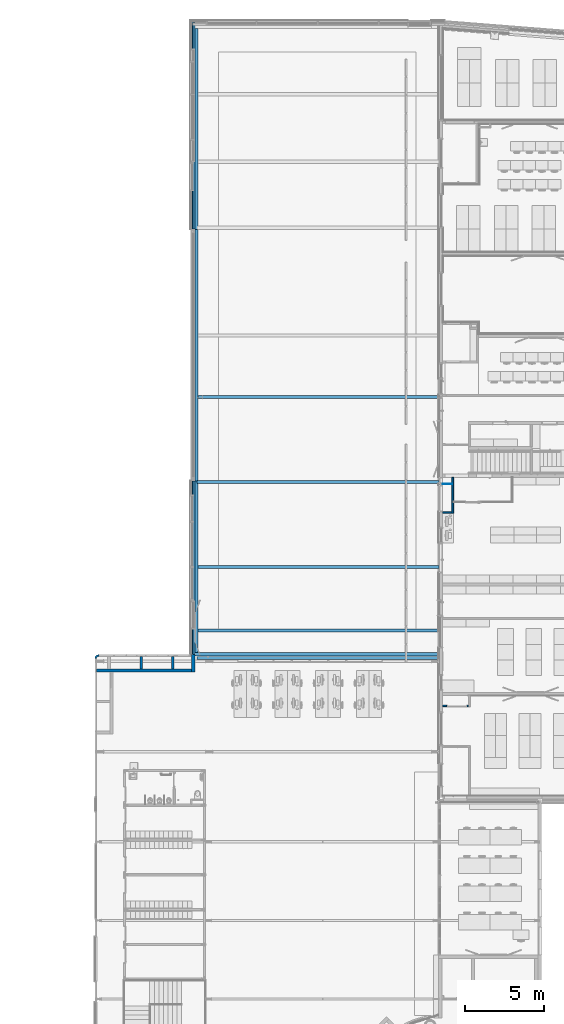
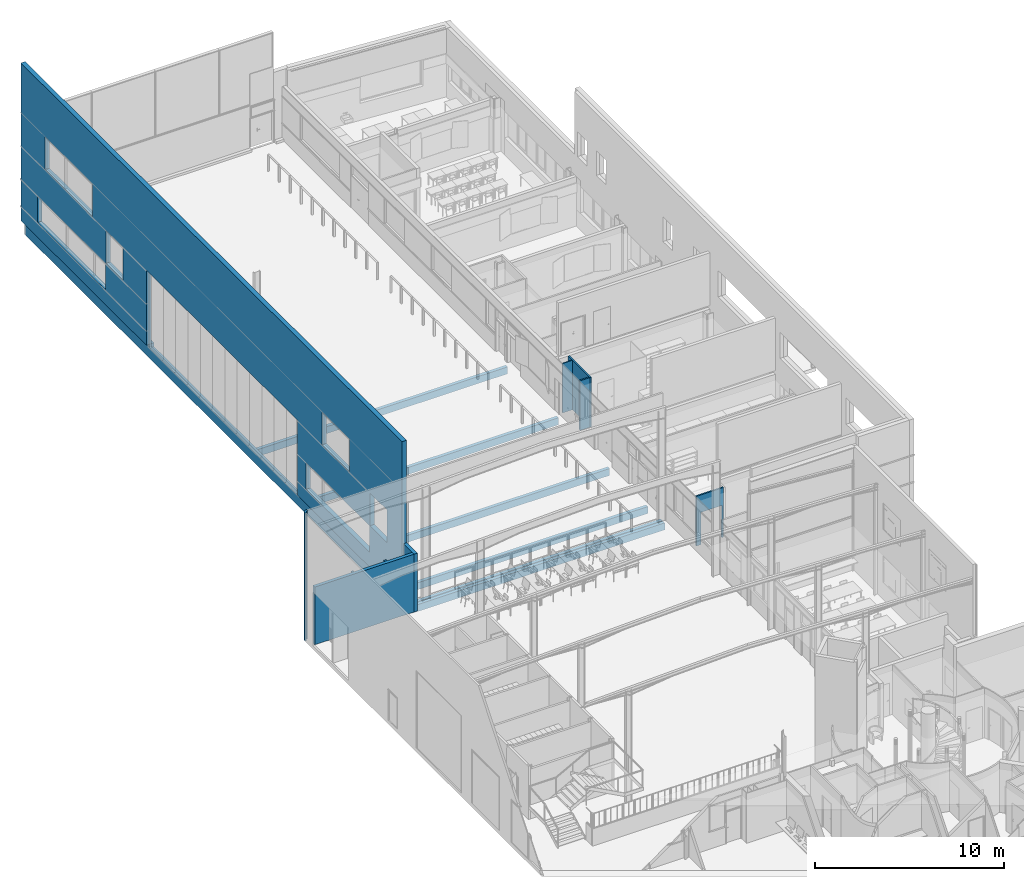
# One storey, part 60 of 137: 18 walls, 11 openings.
"""IFC2X3 building model written with IfcOpenShell, lengths in centimetres."""

from ifc_helpers import new_model, entity, si_unit, converted_unit, derived_unit, direction, frame, frame_2d, origin, place, context, subcontext, project, spatial, polyline, circle_curve, parameter, trimmed, segment, composite_curve, rectangle, outline, extrude, clip, bounded_halfspace, material, layer, layer_set, layer_usage, type_object, element, save


model = new_model("IFC2X3")

# Units and contexts
model_context = context("Model", 3, precision=0.001, world=origin(), true_north=direction((6.12303176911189e-17, 1.0)))
body_context = subcontext(model_context, "Body", "Model", "MODEL_VIEW")
ifc_project = project(units=[si_unit("LENGTHUNIT", "METRE", prefix="CENTI"), si_unit("AREAUNIT", "SQUARE_METRE"), si_unit("VOLUMEUNIT", "CUBIC_METRE"), converted_unit("PLANEANGLEUNIT", "DEGREE", entity("IfcRatioMeasure", 0.0174532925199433), si_unit("PLANEANGLEUNIT", "RADIAN"), dimensions=[0, 0, 0, 0, 0, 0, 0]), si_unit("MASSUNIT", "GRAM", prefix="KILO"), si_unit("TIMEUNIT", "SECOND"), si_unit("FREQUENCYUNIT", "HERTZ"), si_unit("THERMODYNAMICTEMPERATUREUNIT", "DEGREE_CELSIUS"), derived_unit("THERMALTRANSMITTANCEUNIT", [(si_unit("MASSUNIT", "GRAM", prefix="KILO"), 1), (si_unit("THERMODYNAMICTEMPERATUREUNIT", "KELVIN"), -1), (si_unit("TIMEUNIT", "SECOND"), -3)]), derived_unit("VOLUMETRICFLOWRATEUNIT", [(si_unit("LENGTHUNIT", "METRE"), 3), (si_unit("TIMEUNIT", "SECOND"), -1)]), si_unit("ELECTRICCURRENTUNIT", "AMPERE"), si_unit("ELECTRICVOLTAGEUNIT", "VOLT"), si_unit("POWERUNIT", "WATT"), si_unit("FORCEUNIT", "NEWTON", prefix="KILO"), si_unit("ILLUMINANCEUNIT", "LUX"), si_unit("LUMINOUSFLUXUNIT", "LUMEN"), si_unit("LUMINOUSINTENSITYUNIT", "CANDELA"), derived_unit("USERDEFINED", [(si_unit("MASSUNIT", "GRAM", prefix="KILO"), -1), (si_unit("LENGTHUNIT", "METRE"), -2), (si_unit("TIMEUNIT", "SECOND"), 3), (si_unit("LUMINOUSFLUXUNIT", "LUMEN"), 1)]), derived_unit("LINEARVELOCITYUNIT", [(si_unit("LENGTHUNIT", "METRE"), 1), (si_unit("TIMEUNIT", "SECOND"), -1)]), si_unit("PRESSUREUNIT", "PASCAL"), derived_unit("USERDEFINED", [(si_unit("LENGTHUNIT", "METRE"), -2), (si_unit("MASSUNIT", "GRAM", prefix="KILO"), 1), (si_unit("TIMEUNIT", "SECOND"), -2)])], contexts=[model_context])

# Site, building, storey
site_placement = place(None, frame((8.62739174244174, -249.285249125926, 0.0)))
site = spatial("IfcSite", under=ifc_project, at=site_placement, Name="Default", CompositionType="ELEMENT")
building_placement = place(site_placement, origin())
building = spatial("IfcBuilding", under=site, at=building_placement, CompositionType="ELEMENT")
storey_placement = place(building_placement, origin())
storey = spatial("IfcBuildingStorey", under=building, at=storey_placement, Name="RDC", CompositionType="ELEMENT", Elevation=-8.82465566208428e-11)

# Walls
ifc_material_1 = material(Name="Maçonnerie")
ifc_layer_1 = layer(ifc_material_1, 20.0)
ifc_layer_set_1 = layer_set([ifc_layer_1], Name="Mur de base:PAR 20")
ifc_layer_usage_1 = layer_usage(ifc_layer_set_1, "AXIS2", "NEGATIVE", 10.0)
wall_type_1 = type_object("IfcWallType", Name="Mur de base:PAR 20", PredefinedType="STANDARD", material=ifc_layer_set_1)
wall_1_placement = place(storey_placement, frame((1466.9048277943, 3442.98020494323, 0.0), z_axis=(0.0, 0.0, 1.0), x_axis=(0.0, 1.0, 0.0)))
element("IfcWallStandardCase", 1, at=wall_1_placement, inside=storey, type_object=wall_type_1, material=ifc_layer_usage_1, Name="Mur de base:PAR 20", ObjectType="Mur de base:PAR 20", context=body_context, shape_type="SweptSolid", body=[
    extrude(rectangle(XDim=111.000397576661, YDim=19.9999999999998, at=frame_2d((55.5001987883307, 1.15463194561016e-14), x_axis=(-1.0, 0.0))), origin(), (0.0, 0.0, 1.0), 373.000000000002),
])
ifc_layer_usage_2 = layer_usage(ifc_layer_set_1, "AXIS2", "NEGATIVE", 10.0)
wall_2_placement = place(storey_placement, frame((1456.9048277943, 3452.98020494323, 0.0), z_axis=(0.0, 0.0, 1.0), x_axis=(-1.0, 0.0, 0.0)))
element("IfcWallStandardCase", 2, at=wall_2_placement, inside=storey, type_object=wall_type_1, material=ifc_layer_usage_2, Name="Mur de base:PAR 20", ObjectType="Mur de base:PAR 20", context=body_context, shape_type="SweptSolid", body=[
    extrude(rectangle(XDim=605.999999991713, YDim=19.9999999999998, at=frame_2d((302.999999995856, 1.02140518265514e-13), x_axis=(-1.0, 0.0))), origin(), (0.0, 0.0, 1.0), 373.000000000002),
])
ifc_material_2 = material(Name="Tôle/Doublage")
ifc_layer_2 = layer(ifc_material_2, 4.0)
ifc_material_3 = material(Name="Laine minérale")
ifc_layer_3 = layer(ifc_material_3, 6.0)
ifc_layer_4 = layer(ifc_material_2, 1.0)
ifc_layer_set_2 = layer_set([ifc_layer_2, ifc_layer_3, ifc_layer_4], Name="Mur de base:MET 4 + ISO 6 + MET 1")
ifc_layer_usage_3 = layer_usage(ifc_layer_set_2, "AXIS2", "POSITIVE", -5.5)
wall_type_2 = type_object("IfcWallType", Name="Mur de base:MET 4 + ISO 6 + MET 1", PredefinedType="NOTDEFINED")
wall_3_placement = place(storey_placement, frame((845.404439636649, 3528.94953740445, -25.0), z_axis=(0.0, 0.0, 1.0), x_axis=(0.0, 1.0, 0.0)))
element("IfcWallStandardCase", 3, at=wall_3_placement, inside=storey, type_object=wall_type_2, material=ifc_layer_usage_3, Name="Mur de base:MET 4 + ISO 6 + MET 1", ObjectType="Mur de base:MET 4 + ISO 6 + MET 1", context=body_context, shape_type="SweptSolid", body=[
    extrude(outline(composite_curve([segment(trimmed(circle_curve(frame_2d((-0.234953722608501, -19.7750221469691), x_axis=(1.0, 0.0)), 25.2764178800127), [parameter(358.35641782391)], [parameter(89.3192815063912)], True, "PARAMETER"), True, "CONTINUOUS"), segment(polyline([(0.0653427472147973, 5.49961183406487), (-0.00927210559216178, -5.50038816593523)]), True, "CONTINUOUS"), segment(trimmed(circle_curve(frame_2d((-0.234953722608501, -19.7750221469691), x_axis=(1.0, 0.0)), 14.2764178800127), [parameter(357.812988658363)], [parameter(89.0942305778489)], True, "PARAMETER"), False, "CONTINUOUS"), segment(polyline([(14.0310651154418, -20.3198285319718), (25.0310651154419, -20.5000000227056)]), True, "CONTINUOUS")], self_intersect=False)), origin(), (0.0, 0.0, 1.0), 826.000000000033),
])
ifc_material_4 = material(Name="Plâtre")
ifc_layer_5 = layer(ifc_material_4, 10.0)
ifc_layer_set_3 = layer_set([ifc_layer_5], Name="Mur de base:PLA 10")
ifc_layer_usage_4 = layer_usage(ifc_layer_set_3, "AXIS2", "NEGATIVE", 5.0)
wall_type_3 = type_object("IfcWallType", Name="Mur de base:PLA 10", PredefinedType="STANDARD", material=ifc_layer_set_3)
wall_4_placement = place(storey_placement, frame((3118.9048277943, 4682.98020813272, 0.0), z_axis=(0.0, 0.0, 1.0), x_axis=(0.0, -1.0, 0.0)))
element("IfcWallStandardCase", 4, at=wall_4_placement, inside=storey, type_object=wall_type_3, material=ifc_layer_usage_4, Name="Mur de base:PLA 10", ObjectType="Mur de base:PLA 10", context=body_context, shape_type="Clipping", body=[
    clip(extrude(rectangle(XDim=230.000000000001, YDim=10.0000000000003, at=frame_2d((115.0, 9.45910016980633e-14), x_axis=(-1.0, 0.0))), origin(), (0.0, 0.0, 1.0), 320.000000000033), bounded_halfspace(frame((0.0, -5.0, 320.0), z_axis=(0.0, 0.0, -1.0), x_axis=(-1.0, 0.0, 0.0)), True, frame((0.0, -5.0, 320.0)), polyline([(0.0, 0.0), (40.0, 0.0), (45.0, 0.0), (220.0, 0.0), (230.0, 0.0), (230.0, 10.0), (0.0, 10.0), (0.0, 0.0)]))),
])
ifc_layer_usage_5 = layer_usage(ifc_layer_set_3, "AXIS2", "NEGATIVE", 5.0)
wall_5_placement = place(storey_placement, frame((3113.9048277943, 4457.98020813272, 0.0), z_axis=(0.0, 0.0, 1.0), x_axis=(-1.0, 0.0, 0.0)))
element("IfcWallStandardCase", 5, at=wall_5_placement, inside=storey, type_object=wall_type_3, material=ifc_layer_usage_5, Name="Mur de base:PLA 10", ObjectType="Mur de base:PLA 10", context=body_context, shape_type="Clipping", body=[
    clip(extrude(rectangle(XDim=59.9999999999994, YDim=9.99999999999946, at=frame_2d((29.9999999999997, 0.0), x_axis=(-1.0, 0.0))), origin(), (0.0, 0.0, 1.0), 320.000000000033), bounded_halfspace(frame((0.0, -5.0, 320.0), z_axis=(0.0, 0.0, -1.0), x_axis=(0.0, -1.0, 0.0)), True, frame((0.0, -5.0, 320.0)), polyline([(0.0, 0.0), (60.0, 0.0), (60.0, 10.0), (0.0, 10.0), (0.0, 0.0)]))),
])
ifc_layer_6 = layer(ifc_material_4, 5.0)
ifc_layer_set_4 = layer_set([ifc_layer_6], Name="Mur de base:PLA 5")
ifc_layer_usage_6 = layer_usage(ifc_layer_set_4, "AXIS2", "NEGATIVE", 2.5)
wall_type_4 = type_object("IfcWallType", Name="Mur de base:PLA 5", PredefinedType="STANDARD", material=ifc_layer_set_4)
wall_6_placement = place(storey_placement, frame((3113.9048277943, 4640.48020813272, 0.0), z_axis=(0.0, 0.0, 1.0), x_axis=(-1.0, 0.0, 0.0)))
element("IfcWallStandardCase", 6, at=wall_6_placement, inside=storey, type_object=wall_type_4, material=ifc_layer_usage_6, Name="Mur de base:PLA 5", ObjectType="Mur de base:PLA 5", context=body_context, shape_type="Clipping", body=[
    clip(extrude(rectangle(XDim=59.9999999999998, YDim=5.0000000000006, at=frame_2d((29.9999999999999, 0.0), x_axis=(-1.0, 0.0))), origin(), (0.0, 0.0, 1.0), 320.000000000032), bounded_halfspace(frame((0.0, -2.49999999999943, 320.0), z_axis=(0.0, 0.0, -1.0), x_axis=(0.0, -1.0, 0.0)), True, frame((0.0, -2.49999999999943, 320.0)), polyline([(0.0, 0.0), (60.0, 0.0), (60.0, 5.0), (0.0, 5.0), (0.0, 0.0)]))),
])

# Wall, openings
ifc_material_5 = material(Name="Béton, coulé sur place, gris")
ifc_layer_7 = layer(ifc_material_5, 20.0)
ifc_layer_set_5 = layer_set([ifc_layer_7], Name="Mur de base:BET 20")
ifc_layer_usage_7 = layer_usage(ifc_layer_set_5, "AXIS2", "NEGATIVE", 10.0)
wall_type_5 = type_object("IfcWallType", Name="Mur de base:BET 20", PredefinedType="STANDARD", material=ifc_layer_set_5)
wall_7_placement = place(storey_placement, frame((1486.9048277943, 7580.98020806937, -70.0), z_axis=(0.0, 0.0, 1.0), x_axis=(0.0, -1.0, 0.0)))
wall_7 = element("IfcWallStandardCase", 7, at=wall_7_placement, inside=storey, type_object=wall_type_5, material=ifc_layer_usage_7, Name="Mur de base:BET 20", ObjectType="Mur de base:BET 20", context=body_context, shape_type="SweptSolid", body=[
    extrude(rectangle(XDim=4013.99960554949, YDim=20.0000000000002, at=frame_2d((2006.99980277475, -5.32907051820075e-15), x_axis=(-1.0, 0.0))), origin(), (0.0, 0.0, 1.0), 85.0),
])
opening_1_placement = place(storey_placement, frame((1486.9048277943, 7580.98020806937, -70.0), z_axis=(0.0, 0.0, 1.0), x_axis=(0.0, -1.0, 0.0)))
element("IfcOpeningElement", 8, at=opening_1_placement, cuts=wall_7, Name="Mur de base:BET 20:1", ObjectType="Opening", context=body_context, shape_type="SweptSolid", body=[
    extrude(rectangle(XDim=85.0, YDim=20.0, at=frame_2d((-5.0, -3.33333333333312), x_axis=(1.0, 0.0))), frame((39.0036566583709, 3.3333333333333, 47.5), z_axis=(-1.0, 0.0, 0.0), x_axis=(0.0, 0.0, 1.0)), (0.0, 0.0, 1.0), 19.9999999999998),
])
opening_2_placement = place(wall_7_placement, origin())
element("IfcOpeningElement", 9, at=opening_2_placement, cuts=wall_7, Name="Mur de base:BET 20", ObjectType="Opening", context=body_context, shape_type="SweptSolid", body=[
    extrude(rectangle(XDim=24.9999999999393, YDim=1600.0, at=frame_2d((-4.54747350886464e-13, 0.0), x_axis=(0.0, 1.0))), frame((2119.70498516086, 10.0, 72.5000000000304), z_axis=(0.0, -1.0, 0.0), x_axis=(-1.0, 0.0, 0.0)), (0.0, 0.0, 1.0), 20.0),
])

# Walls
ifc_layer_usage_8 = layer_usage(ifc_layer_set_5, "AXIS2", "NEGATIVE", 10.0)
wall_8_placement = place(storey_placement, frame((3032.1548277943, 5193.47890937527, -70.0), z_axis=(0.0, 0.0, 1.0), x_axis=(-1.0, 0.0, 0.0)))
element("IfcWallStandardCase", 10, at=wall_8_placement, inside=storey, type_object=wall_type_5, material=ifc_layer_usage_8, Name="Mur de base:BET 20", ObjectType="Mur de base:BET 20", context=body_context, shape_type="SweptSolid", body=[
    extrude(rectangle(XDim=1535.25, YDim=20.0000000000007, at=frame_2d((767.624999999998, 0.0), x_axis=(-1.0, 0.0))), origin(), (0.0, 0.0, 1.0), 45.0),
])
ifc_layer_usage_9 = layer_usage(ifc_layer_set_5, "AXIS2", "NEGATIVE", 10.0)
wall_9_placement = place(storey_placement, frame((3032.1548277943, 4652.47628617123, -70.0), z_axis=(0.0, 0.0, 1.0), x_axis=(-1.0, 0.0, 0.0)))
element("IfcWallStandardCase", 11, at=wall_9_placement, inside=storey, type_object=wall_type_5, material=ifc_layer_usage_9, Name="Mur de base:BET 20", ObjectType="Mur de base:BET 20", context=body_context, shape_type="SweptSolid", body=[
    extrude(rectangle(XDim=1542.75000000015, YDim=20.0000000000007, at=frame_2d((771.375000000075, 0.0), x_axis=(-1.0, 0.0))), origin(), (0.0, 0.0, 1.0), 45.0),
])
ifc_layer_usage_10 = layer_usage(ifc_layer_set_5, "AXIS2", "NEGATIVE", 10.0)
wall_10_placement = place(storey_placement, frame((3032.15482779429, 4112.48020806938, -70.0), z_axis=(0.0, 0.0, 1.0), x_axis=(-1.0, 0.0, 0.0)))
element("IfcWallStandardCase", 12, at=wall_10_placement, inside=storey, type_object=wall_type_5, material=ifc_layer_usage_10, Name="Mur de base:BET 20", ObjectType="Mur de base:BET 20", context=body_context, shape_type="SweptSolid", body=[
    extrude(rectangle(XDim=1535.25, YDim=20.0000000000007, at=frame_2d((767.624999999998, 0.0), x_axis=(-1.0, 0.0))), origin(), (0.0, 0.0, 1.0), 45.0),
])
ifc_layer_usage_11 = layer_usage(ifc_layer_set_5, "AXIS2", "NEGATIVE", 10.0)
wall_11_placement = place(storey_placement, frame((3032.15482779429, 3707.48020806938, -70.0), z_axis=(0.0, 0.0, 1.0), x_axis=(-1.0, 0.0, 0.0)))
element("IfcWallStandardCase", 13, at=wall_11_placement, inside=storey, type_object=wall_type_5, material=ifc_layer_usage_11, Name="Mur de base:BET 20", ObjectType="Mur de base:BET 20", context=body_context, shape_type="SweptSolid", body=[
    extrude(rectangle(XDim=1535.25, YDim=19.9999999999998, at=frame_2d((767.624999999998, 0.0), x_axis=(-1.0, 0.0))), origin(), (0.0, 0.0, 1.0), 45.0),
])
ifc_layer_usage_12 = layer_usage(ifc_layer_set_5, "AXIS2", "NEGATIVE", 10.0)
wall_12_placement = place(storey_placement, frame((3032.15482779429, 3556.98060251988, -70.0), z_axis=(0.0, 0.0, 1.0), x_axis=(-1.0, 0.0, 0.0)))
element("IfcWallStandardCase", 14, at=wall_12_placement, inside=storey, type_object=wall_type_5, material=ifc_layer_usage_12, Name="Mur de base:BET 20", ObjectType="Mur de base:BET 20", context=body_context, shape_type="SweptSolid", body=[
    extrude(rectangle(XDim=1555.25, YDim=19.9999999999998, at=frame_2d((777.624999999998, 0.0), x_axis=(-1.0, 0.0))), origin(), (0.0, 0.0, 1.0), 45.0),
])
ifc_layer_usage_13 = layer_usage(ifc_layer_set_5, "AXIS2", "NEGATIVE", 10.0)
wall_13_placement = place(storey_placement, frame((3033.90482779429, 3533.18519336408, -70.0), z_axis=(0.0, 0.0, 1.0), x_axis=(-1.0, 0.0, 0.0)))
element("IfcWallStandardCase", 15, at=wall_13_placement, inside=storey, type_object=wall_type_5, material=ifc_layer_usage_13, Name="Mur de base:BET 20", ObjectType="Mur de base:BET 20", context=body_context, shape_type="SweptSolid", body=[
    extrude(rectangle(XDim=1542.50000000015, YDim=19.9999999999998, at=frame_2d((771.250000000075, 0.0), x_axis=(-1.0, 0.0))), origin(), (0.0, 0.0, 1.0), 45.0),
])

# Wall, opening
ifc_material_6 = material(Name="Stuc")
ifc_layer_8 = layer(ifc_material_6, 10.0)
ifc_layer_set_6 = layer_set([ifc_layer_8], Name="Mur de base:CIM 10")
ifc_layer_usage_14 = layer_usage(ifc_layer_set_6, "AXIS2", "NEGATIVE", 5.0)
wall_type_6 = type_object("IfcWallType", Name="Mur de base:CIM 10", PredefinedType="STANDARD", material=ifc_layer_set_6)
wall_14_placement = place(storey_placement, frame((3219.90482780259, 3228.18519336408, 0.0), z_axis=(0.0, 0.0, 1.0), x_axis=(-1.0, 0.0, 0.0)))
wall_14 = element("IfcWallStandardCase", 16, at=wall_14_placement, inside=storey, type_object=wall_type_6, material=ifc_layer_usage_14, Name="Mur de base:CIM 10", ObjectType="Mur de base:CIM 10", context=body_context, shape_type="Clipping", body=[
    clip(extrude(rectangle(XDim=166.000000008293, YDim=10.0000000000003, at=frame_2d((83.0000000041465, 1.4210854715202e-14), x_axis=(-1.0, 0.0))), origin(), (0.0, 0.0, 1.0), 320.000000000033), bounded_halfspace(frame((0.0, -5.0, 320.0), z_axis=(0.0, 0.0, -1.0), x_axis=(0.0, -1.0, 0.0)), True, frame((0.0, -5.0, 320.0)), polyline([(0.0, 0.0), (166.0, 0.0), (166.0, 10.0), (0.0, 10.0), (0.0, 0.0)]))),
])
opening_3_placement = place(wall_14_placement, frame((10.0, -5.0, 0.0)))
element("IfcOpeningElement", 17, at=opening_3_placement, cuts=wall_14, Name="Double(R)_bois_mu:123 x 204 cm:1", ObjectType="Opening", context=body_context, shape_type="SweptSolid", body=[
    extrude(rectangle(XDim=206.999999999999, YDim=129.0, at=frame_2d((103.499999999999, 64.4999999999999), x_axis=(1.0, 0.0))), frame((0.0, 0.0, 0.0), z_axis=(0.0, 1.0, 0.0), x_axis=(0.0, 0.0, 1.0)), (0.0, 0.0, 1.0), 10.0),
])

# Wall, openings
ifc_material_7 = material(Name="Tôle/Doublage(PROJET)")
ifc_layer_9 = layer(ifc_material_7, 4.0)
ifc_layer_10 = layer(ifc_material_3, 22.0)
ifc_material_8 = material(Name="Plateau-acier-perforé")
ifc_layer_11 = layer(ifc_material_8, 1.0)
ifc_layer_set_7 = layer_set([ifc_layer_9, ifc_layer_10, ifc_layer_11], Name="Mur de base:MET PROJET 4 + ISO 23 + MET 2 bis")
ifc_layer_usage_15 = layer_usage(ifc_layer_set_7, "AXIS2", "NEGATIVE", 13.5)
wall_type_7 = type_object("IfcWallType", Name="Mur de base:MET PROJET 4 + ISO 23 + MET 2 bis", PredefinedType="STANDARD", material=ifc_layer_set_7)
wall_15_placement = place(storey_placement, frame((1463.4048277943, 3557.4806025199, 15.0), z_axis=(0.0, 0.0, 1.0), x_axis=(0.0, 1.0, 0.0)))
wall_15 = element("IfcWallStandardCase", 18, at=wall_15_placement, inside=storey, type_object=wall_type_7, material=ifc_layer_usage_15, Name="Mur de base:MET PROJET 4 + ISO 23 + MET 2 bis", ObjectType="Mur de base:MET PROJET 4 + ISO 23 + MET 2 bis", context=body_context, shape_type="SweptSolid", body=[
    extrude(rectangle(XDim=4031.4959488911, YDim=26.9999999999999, at=frame_2d((2015.74797444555, 4.44089209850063e-15), x_axis=(-1.0, 0.0))), origin(), (0.0, 0.0, 1.0), 1017.08435707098),
])
opening_4_placement = place(wall_15_placement, origin())
element("IfcOpeningElement", 19, at=opening_4_placement, cuts=wall_15, Name="Mur de base:MET PROJET 4 + ISO 23 + MET 2 bis", ObjectType="Opening", context=body_context, shape_type="SweptSolid", body=[
    extrude(rectangle(XDim=500.0, YDim=1600.0, at=frame_2d((4.54747350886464e-13, 0.0), x_axis=(0.0, 1.0))), frame((1903.79462038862, -28.74, 235.0), z_axis=(0.0, 1.0, 0.0), x_axis=(-1.0, 0.0, 0.0)), (0.0, 0.0, 1.0), 57.4799999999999),
])
opening_5_placement = place(wall_15_placement, origin())
element("IfcOpeningElement", 20, at=opening_5_placement, cuts=wall_15, Name="Mur de base:MET PROJET 4 + ISO 23 + MET 2 bis", ObjectType="Opening", context=body_context, shape_type="SweptSolid", body=[
    extrude(rectangle(XDim=169.999999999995, YDim=670.000029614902, at=frame_2d((2.27373675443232e-13, -1.4210854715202e-14), x_axis=(0.0, 1.0))), frame((678.499620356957, -28.7400000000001, 180.0), z_axis=(0.0, 1.0, 0.0), x_axis=(-1.0, 0.0, 0.0)), (0.0, 0.0, 1.0), 57.4799999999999),
])
opening_6_placement = place(wall_15_placement, origin())
element("IfcOpeningElement", 21, at=opening_6_placement, cuts=wall_15, Name="Mur de base:MET PROJET 4 + ISO 23 + MET 2 bis", ObjectType="Opening", context=body_context, shape_type="SweptSolid", body=[
    extrude(rectangle(XDim=209.999999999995, YDim=180.0, at=frame_2d((4.33431068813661e-13, -2.8421709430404e-14), x_axis=(0.0, 1.0))), frame((248.499605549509, -28.7399999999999, 375.0), z_axis=(0.0, 1.0, 0.0), x_axis=(-1.0, 0.0, 0.0)), (0.0, 0.0, 1.0), 57.4799999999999),
])
opening_7_placement = place(wall_15_placement, origin())
element("IfcOpeningElement", 22, at=opening_7_placement, cuts=wall_15, Name="Mur de base:MET PROJET 4 + ISO 23 + MET 2 bis", ObjectType="Opening", context=body_context, shape_type="SweptSolid", body=[
    extrude(rectangle(XDim=210.000000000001, YDim=180.0, at=frame_2d((-4.33431068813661e-13, 0.0), x_axis=(0.0, 1.0))), frame((3039.99140000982, -28.7400000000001, 375.0), z_axis=(0.0, 1.0, 0.0), x_axis=(-1.0, 0.0, 0.0)), (0.0, 0.0, 1.0), 57.4799999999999),
])
opening_8_placement = place(wall_15_placement, origin())
element("IfcOpeningElement", 23, at=opening_8_placement, cuts=wall_15, Name="Mur de base:MET PROJET 4 + ISO 23 + MET 2 bis", ObjectType="Opening", context=body_context, shape_type="SweptSolid", body=[
    extrude(rectangle(XDim=169.999999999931, YDim=720.0, at=frame_2d((4.2632564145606e-13, -1.4210854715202e-14), x_axis=(0.0, 1.0))), frame((3493.49140000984, -28.7400000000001, 180.0), z_axis=(0.0, 1.0, 0.0), x_axis=(-1.0, 0.0, 0.0)), (0.0, 0.0, 1.0), 57.4799999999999),
])
opening_9_placement = place(wall_15_placement, origin())
element("IfcOpeningElement", 24, at=opening_9_placement, cuts=wall_15, Name="Mur de base:MET PROJET 4 + ISO 23 + MET 2 bis", ObjectType="Opening", context=body_context, shape_type="SweptSolid", body=[
    extrude(rectangle(XDim=210.0, YDim=290.0, at=frame_2d((0.0, 4.9737991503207e-14), x_axis=(0.0, 1.0))), frame((699.999605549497, -28.74, 590.0), z_axis=(0.0, 1.0, 0.0), x_axis=(-1.0, 0.0, 0.0)), (0.0, 0.0, 1.0), 57.4799999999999),
])
opening_10_placement = place(wall_15_placement, origin())
element("IfcOpeningElement", 25, at=opening_10_placement, cuts=wall_15, Name="Mur de base:MET PROJET 4 + ISO 23 + MET 2 bis", ObjectType="Opening", context=body_context, shape_type="SweptSolid", body=[
    extrude(rectangle(XDim=210.0, YDim=500.0, at=frame_2d((-4.40536496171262e-13, 4.9737991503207e-14), x_axis=(0.0, 1.0))), frame((3523.4963433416, -28.74, 590.0), z_axis=(0.0, 1.0, 0.0), x_axis=(-1.0, 0.0, 0.0)), (0.0, 0.0, 1.0), 57.4799999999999),
])

# Walls
ifc_layer_12 = layer(ifc_material_1, 15.0)
ifc_layer_set_8 = layer_set([ifc_layer_12], Name="Mur de base:PAR 15")
ifc_layer_usage_16 = layer_usage(ifc_layer_set_8, "AXIS2", "NEGATIVE", 7.5)
wall_type_8 = type_object("IfcWallType", Name="Mur de base:PAR 15", PredefinedType="STANDARD", material=ifc_layer_set_8)
wall_16_placement = place(storey_placement, frame((1136.40482780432, 3542.98060251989, 0.0), z_axis=(0.0, 0.0, 1.0), x_axis=(0.0, -1.0, 0.0)))
element("IfcWallStandardCase", 26, at=wall_16_placement, inside=storey, type_object=wall_type_8, material=ifc_layer_usage_16, Name="Mur de base:PAR 15", ObjectType="Mur de base:PAR 15", context=body_context, shape_type="SweptSolid", body=[
    extrude(rectangle(XDim=80.0003975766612, YDim=15.0000000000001, at=frame_2d((40.0001987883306, 0.0), x_axis=(-1.0, 0.0))), origin(), (0.0, 0.0, 1.0), 318.000000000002),
])
ifc_layer_usage_17 = layer_usage(ifc_layer_set_8, "AXIS2", "NEGATIVE", 7.5)
wall_17_placement = place(storey_placement, frame((1336.40482780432, 3542.98060251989, 0.0), z_axis=(0.0, 0.0, 1.0), x_axis=(0.0, -1.0, 0.0)))
element("IfcWallStandardCase", 27, at=wall_17_placement, inside=storey, type_object=wall_type_8, material=ifc_layer_usage_17, Name="Mur de base:PAR 15", ObjectType="Mur de base:PAR 15", context=body_context, shape_type="SweptSolid", body=[
    extrude(rectangle(XDim=80.0003975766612, YDim=15.0000000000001, at=frame_2d((40.0001987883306, 0.0), x_axis=(-1.0, 0.0))), origin(), (0.0, 0.0, 1.0), 318.0),
])

# Wall, opening
ifc_layer_13 = layer(ifc_material_1, 1.0)
ifc_layer_14 = layer(ifc_material_3, 9.0)
ifc_layer_15 = layer(ifc_material_4, 2.0)
ifc_layer_set_9 = layer_set([ifc_layer_13, ifc_layer_14, ifc_layer_15], Name="Mur de base:PLA 2 +  + ISO 9 + ETAN 1")
ifc_layer_usage_18 = layer_usage(ifc_layer_set_9, "AXIS2", "NEGATIVE", 6.0)
wall_type_9 = type_object("IfcWallType", Name="Mur de base:PLA 2 +  + ISO 9 + ETAN 1", PredefinedType="STANDARD", material=ifc_layer_set_9)
wall_18_placement = place(storey_placement, frame((1470.9048277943, 7575.476551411, -70.0), z_axis=(0.0, 0.0, 1.0), x_axis=(0.0, -1.0, 0.0)))
wall_18 = element("IfcWallStandardCase", 28, at=wall_18_placement, inside=storey, type_object=wall_type_9, material=ifc_layer_usage_18, Name="Mur de base:PLA 2 +  + ISO 9 + ETAN 1", ObjectType="Mur de base:PLA 2 +  + ISO 9 + ETAN 1", context=body_context, shape_type="SweptSolid", body=[
    extrude(rectangle(XDim=4020.69594889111, YDim=11.9999999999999, at=frame_2d((2010.34797444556, -4.70734562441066e-14), x_axis=(-1.0, 0.0))), origin(), (0.0, 0.0, 1.0), 85.0000000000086),
])
opening_11_placement = place(wall_18_placement, origin())
element("IfcOpeningElement", 29, at=opening_11_placement, cuts=wall_18, Name="Mur de base:PLA 2 +  + ISO 9 + ETAN 1", ObjectType="Opening", context=body_context, shape_type="SweptSolid", body=[
    extrude(rectangle(XDim=14.9999999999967, YDim=1600.0, at=frame_2d((-4.54747350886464e-13, 1.28341781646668e-12), x_axis=(0.0, 1.0))), frame((2114.20132850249, 6.0, 77.5000000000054), z_axis=(0.0, -1.0, 0.0), x_axis=(-1.0, 0.0, 0.0)), (0.0, 0.0, 1.0), 12.0),
])

save(model, "model.ifc")
